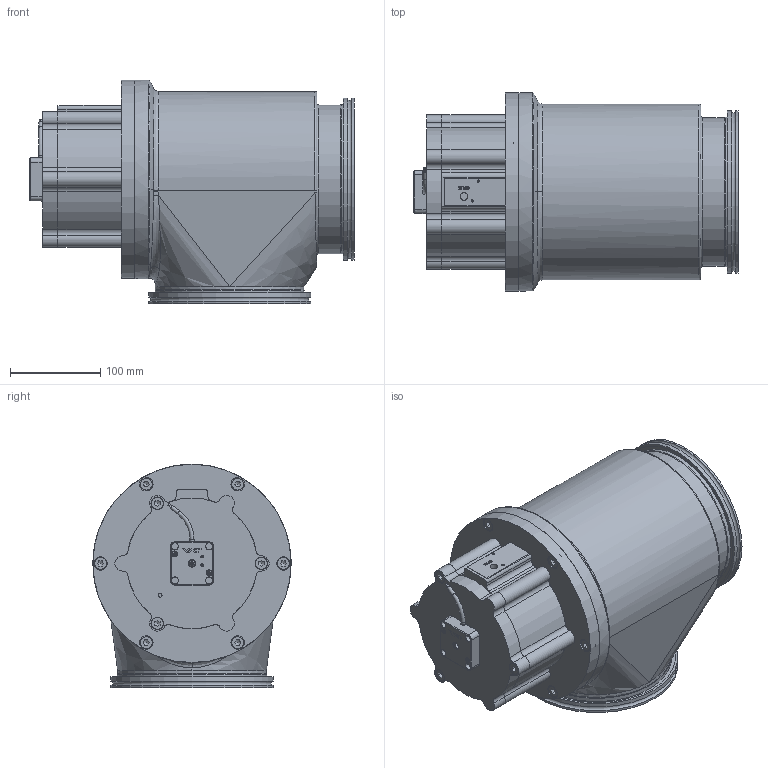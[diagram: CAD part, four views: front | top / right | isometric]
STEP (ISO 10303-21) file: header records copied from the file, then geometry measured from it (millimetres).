
FILE_DESCRIPTION(/* description */ (''),/* implementation_level */ '2;1');
FILE_NAME(/* name */ '1491066436_203.stp',/* time_stamp */ '2016-03-04T11:00:18+01:00',/* author */ (''),/* organization */ (''),/* preprocessor_version */ 'ST-DEVELOPER v15',/* originating_system */ 'SIEMENS PLM Software NX 9.0',/* authorisation */ '');
FILE_SCHEMA (('AP203_CONFIGURATION_CONTROLLED_3D_DESIGN_OF_MECHANICAL_PARTS_AND_ASSEMBLIES_MIM_LF { 1 0 10303 403 2 1 2}'));
Length unit declared in the file: millimetre
Products named in the file (14): 500093_22908ID; n-6121-026.2; 546207_23045ID; 236204_1.1; 233359; 421306; 546196; 546253; 228777; 476060; 500278_MODEL; 546204_MODEL; 421285; 563808
Assembly tree (22 placements, depth 3):
  563808
    476060
    228777  x9
    421285
      421306
      233359
      236204_1.1  x2
    546204_MODEL
      546207_23045ID
      n-6121-026.2
    546253
    500278_MODEL
      500093_22908ID
    546196
Bounding box: 359.5 x 220 x 248 mm (x, y, z)
Volume: 2843870.7 mm3; surface area: 640990.3 mm2
Topology: 37 solids, 37 shells, 859 faces, 2087 edges, 1357 vertices
Faces by surface type: plane 422, cylinder 261, cone 85, bspline 50, torus 32, extrusion 8, sphere 1
Full cylindrical faces by diameter (mm): 1.4 x4, 2.5 x5, 3 x6, 3.85 x1, 4 x1, 4.2 x2, 4.5 x2, 5.6 x2, 6.2 x2, 6.66 x9, 6.7 x9, 6.8 x12, 7.4 x1, 8 x19, 8.4 x1, 8.566 x1, 9 x12, 13 x9, 14 x6, 15 x6, 21 x1, 23.011 x3, 23.3 x2, 29.4 x2, 30 x1, 39.5 x1, 40 x1, 44.4 x1, 50 x1, 135.125 x1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
Entity records: 24401 total; most frequent: CARTESIAN_POINT 6889, DIRECTION 3205, ORIENTED_EDGE 3006, EDGE_CURVE 1503, AXIS2_PLACEMENT_3D 1262, VERTEX_POINT 1084, EDGE_LOOP 983, ADVANCED_FACE 689
